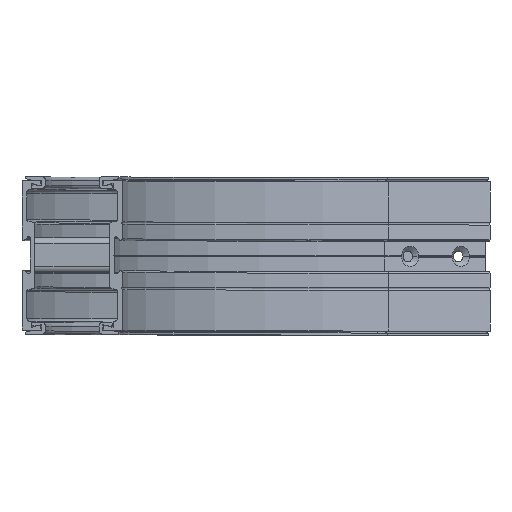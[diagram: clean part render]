
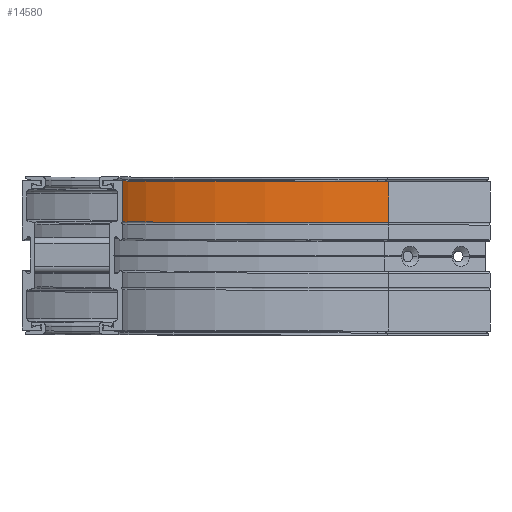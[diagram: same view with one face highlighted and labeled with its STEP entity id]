
A CAD part, top view. The second image highlights one B-rep face of the part: STEP entity #14580.
In plain terms, the highlighted cylindrical face has radius 457 mm (diameter 914 mm), a partial arc.
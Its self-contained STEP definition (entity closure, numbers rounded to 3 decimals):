
#2037 = CARTESIAN_POINT ( 'NONE',  ( 43., 64., -100. ) ) ;
#2197 = CARTESIAN_POINT ( 'NONE',  ( 271.5, 64., -495.774 ) ) ;
#2237 = CARTESIAN_POINT ( 'NONE',  ( 43., 29.036, -100. ) ) ;
#2262 = CARTESIAN_POINT ( 'NONE',  ( 271.5, 29.036, -495.774 ) ) ;
#3568 = VERTEX_POINT ( 'NONE', #2262 ) ;
#3593 = VERTEX_POINT ( 'NONE', #2237 ) ;
#3633 = VERTEX_POINT ( 'NONE', #2197 ) ;
#3792 = VERTEX_POINT ( 'NONE', #2037 ) ;
#7206 = FACE_OUTER_BOUND ( 'NONE', #10199, .T. ) ;
#7208 = CYLINDRICAL_SURFACE ( 'NONE', #12421, 457. ) ;
#7652 = ORIENTED_EDGE ( 'NONE', *, *, #16357, .T. ) ;
#7653 = ORIENTED_EDGE ( 'NONE', *, *, #16355, .T. ) ;
#7654 = ORIENTED_EDGE ( 'NONE', *, *, #16354, .F. ) ;
#7655 = ORIENTED_EDGE ( 'NONE', *, *, #16353, .F. ) ;
#10199 = EDGE_LOOP ( 'NONE', ( #7652, #7653, #7654, #7655 ) ) ;
#10447 = DIRECTION ( 'NONE',  ( 0., 0., 1. ) ) ;
#10448 = DIRECTION ( 'NONE',  ( 0., 1., 0. ) ) ;
#10451 = CARTESIAN_POINT ( 'NONE',  ( 500., 64., -100. ) ) ;
#10456 = DIRECTION ( 'NONE',  ( 0., -1., 0. ) ) ;
#10458 = CARTESIAN_POINT ( 'NONE',  ( 43., 29.036, -100. ) ) ;
#10459 = DIRECTION ( 'NONE',  ( 0., 0., 1. ) ) ;
#10461 = DIRECTION ( 'NONE',  ( 0., 1., 0. ) ) ;
#10462 = CARTESIAN_POINT ( 'NONE',  ( 500., 29.036, -100. ) ) ;
#10463 = DIRECTION ( 'NONE',  ( 0., -1., 0. ) ) ;
#10465 = CARTESIAN_POINT ( 'NONE',  ( 271.5, 29.036, -495.774 ) ) ;
#12421 = AXIS2_PLACEMENT_3D ( 'NONE', #13316, #13314, #13311 ) ;
#12654 = AXIS2_PLACEMENT_3D ( 'NONE', #10462, #10461, #10459 ) ;
#12656 = AXIS2_PLACEMENT_3D ( 'NONE', #10451, #10448, #10447 ) ;
#13311 = DIRECTION ( 'NONE',  ( 0., 0., 1. ) ) ;
#13314 = DIRECTION ( 'NONE',  ( 0., 1., 0. ) ) ;
#13316 = CARTESIAN_POINT ( 'NONE',  ( 500., 0., -100. ) ) ;
#14580 = ADVANCED_FACE ( 'NONE', ( #7206 ), #7208, .F. ) ;
#16353 = EDGE_CURVE ( 'NONE', #3633, #3568, #18118, .T. ) ;
#16354 = EDGE_CURVE ( 'NONE', #3568, #3593, #18122, .T. ) ;
#16355 = EDGE_CURVE ( 'NONE', #3792, #3593, #18121, .T. ) ;
#16357 = EDGE_CURVE ( 'NONE', #3633, #3792, #18125, .T. ) ;
#18118 = LINE ( 'NONE', #10465, #18120 ) ;
#18120 = VECTOR ( 'NONE', #10463, 1000. ) ;
#18121 = LINE ( 'NONE', #10458, #18123 ) ;
#18122 = CIRCLE ( 'NONE', #12654, 457. ) ;
#18123 = VECTOR ( 'NONE', #10456, 1000. ) ;
#18125 = CIRCLE ( 'NONE', #12656, 457. ) ;
